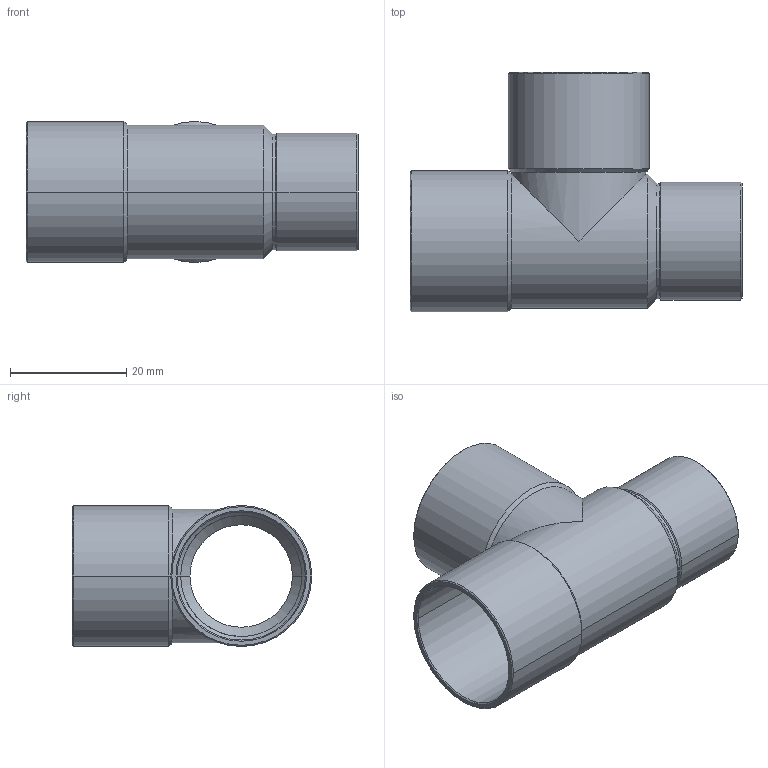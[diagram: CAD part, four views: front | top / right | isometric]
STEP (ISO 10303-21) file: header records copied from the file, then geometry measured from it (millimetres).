
FILE_DESCRIPTION((''),'2;1');
FILE_NAME('P:\Bouwmaten\z-maattekeningen 3D\5000\5130\5130222218.stp','2005-10-26T11:53:53',('Kris'),(''),'Autodesk Inventor 8','Autodesk Inventor 8','');
FILE_SCHEMA(('AUTOMOTIVE_DESIGN { 1 0 10303 214 1 1 1 1 }'));
Length unit declared in the file: millimetre
Products named in the file (1): 5130222218
Bounding box: 57 x 41.1 x 24.2 mm (x, y, z)
Volume: 5451.6 mm3; surface area: 10231.7 mm2
Topology: 1 solids, 1 shells, 55 faces, 118 edges, 64 vertices
Faces by surface type: cone 28, cylinder 24, plane 3
Entity records: 1495 total; most frequent: DIRECTION 294, CARTESIAN_POINT 238, ORIENTED_EDGE 236, AXIS2_PLACEMENT_3D 120, EDGE_CURVE 118, VERTEX_POINT 64, EDGE_LOOP 58, CIRCLE 56
